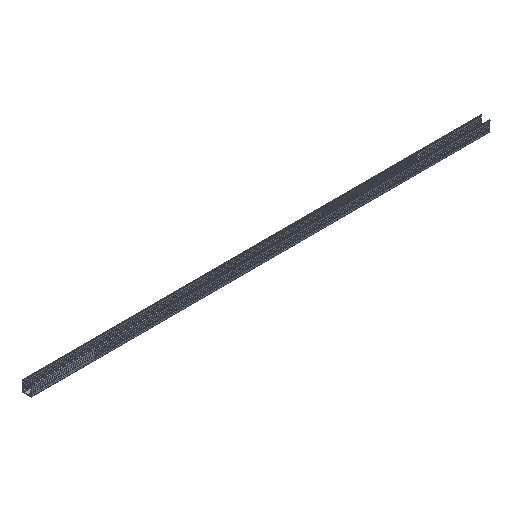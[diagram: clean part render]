
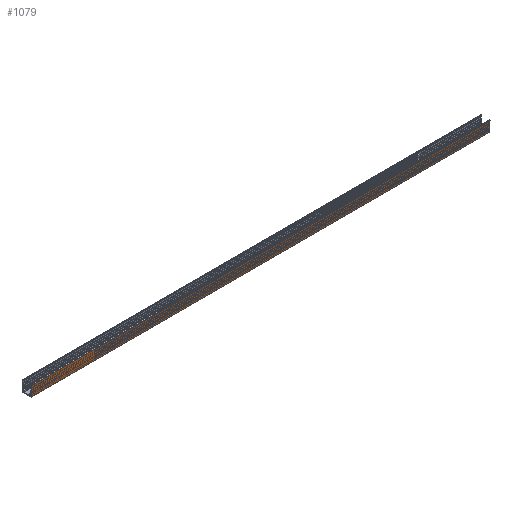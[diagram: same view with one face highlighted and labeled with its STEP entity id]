
A CAD part, isometric view. The second image highlights one B-rep face of the part: STEP entity #1079.
In plain terms, the highlighted planar face has unit normal (0, -1, 0).
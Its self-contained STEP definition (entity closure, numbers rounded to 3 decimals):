
#50=PLANE('',#1185);
#103=FACE_OUTER_BOUND('',#161,.T.);
#161=EDGE_LOOP('',(#913,#914,#915,#916));
#277=LINE('',#1800,#393);
#278=LINE('',#1803,#394);
#279=LINE('',#1805,#395);
#280=LINE('',#1806,#396);
#393=VECTOR('',#1481,10.);
#394=VECTOR('',#1484,10.);
#395=VECTOR('',#1485,10.);
#396=VECTOR('',#1486,10.);
#537=VERTEX_POINT('',#1796);
#538=VERTEX_POINT('',#1798);
#539=VERTEX_POINT('',#1802);
#540=VERTEX_POINT('',#1804);
#691=EDGE_CURVE('',#537,#538,#277,.T.);
#692=EDGE_CURVE('',#539,#537,#278,.T.);
#693=EDGE_CURVE('',#540,#538,#279,.T.);
#694=EDGE_CURVE('',#539,#540,#280,.T.);
#913=ORIENTED_EDGE('',*,*,#692,.T.);
#914=ORIENTED_EDGE('',*,*,#691,.T.);
#915=ORIENTED_EDGE('',*,*,#693,.F.);
#916=ORIENTED_EDGE('',*,*,#694,.F.);
#1079=ADVANCED_FACE('',(#103),#50,.T.);
#1185=AXIS2_PLACEMENT_3D('',#1801,#1482,#1483);
#1481=DIRECTION('',(1.,0.,0.));
#1482=DIRECTION('center_axis',(0.,-1.,0.));
#1483=DIRECTION('ref_axis',(0.,0.,-1.));
#1484=DIRECTION('',(0.,0.,-1.));
#1485=DIRECTION('',(0.,0.,-1.));
#1486=DIRECTION('',(1.,0.,0.));
#1796=CARTESIAN_POINT('',(0.,-10.1,0.5));
#1798=CARTESIAN_POINT('',(1000.,-10.1,0.5));
#1800=CARTESIAN_POINT('',(0.,-10.1,0.5));
#1801=CARTESIAN_POINT('Origin',(0.,-10.1,22.2));
#1802=CARTESIAN_POINT('',(0.,-10.1,22.2));
#1803=CARTESIAN_POINT('',(0.,-10.1,22.2));
#1804=CARTESIAN_POINT('',(1000.,-10.1,22.2));
#1805=CARTESIAN_POINT('',(1000.,-10.1,22.2));
#1806=CARTESIAN_POINT('',(0.,-10.1,22.2));
